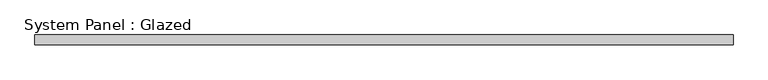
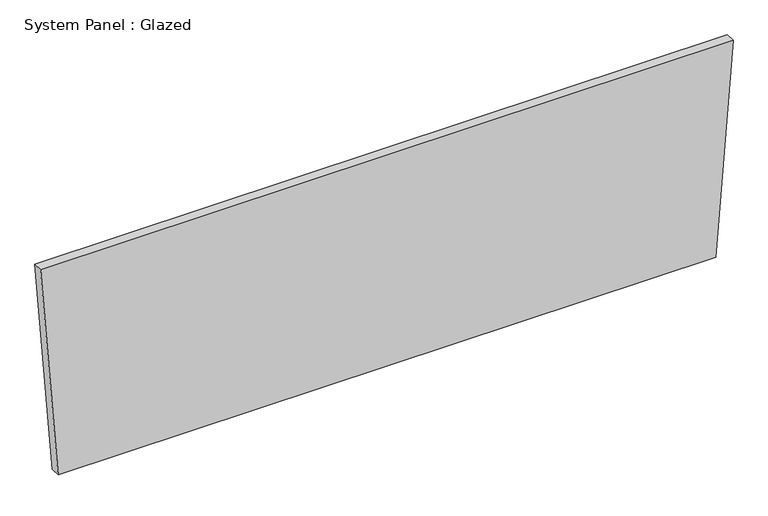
"""IFC4 building model written with IfcOpenShell, lengths in millimetres: plate geometry, System Panel : Glazed."""

from ifc_helpers import new_model, si_unit, frame, origin, place, context, project, spatial, polyline, outline, extrude, source, transform, mapped, element, save


def system_panel_glazed_2beafd58(model_context):
    return source(origin(), model_context, "Body", "SweptSolid", [
        extrude(outline(polyline([(0.0, -858.7313408), (0.0, 858.7313408), (582.3327757, 904.4150628), (582.3327757, -904.4150628), (0.0, -858.7313408)])), frame((0.0, -44.45, 0.0), z_axis=(0.0, 1.0, 0.0), x_axis=(0.0, 0.0, 1.0)), (0.0, 0.0, 1.0), 25.4),
    ])


if __name__ == "__main__":
    model = new_model("IFC4")
    model_context = context("Model", 3, world=origin())
    ifc_project = project(units=[si_unit("LENGTHUNIT", "METRE", prefix="MILLI")], contexts=[model_context])
    site = spatial("IfcSite", under=ifc_project)
    building = spatial("IfcBuilding", under=site)
    placement = place(None, origin())
    system_panel_glazed_shape = system_panel_glazed_2beafd58(model_context)
    element("IfcPlate", 1, ObjectType="System Panel : Glazed", at=placement, inside=building, context=model_context, shape_type="MappedRepresentation", body=[
        mapped(system_panel_glazed_shape, transform((0.0, 0.0, 0.0), x_axis=(1.0, 0.0, 0.0), y_axis=(0.0, 1.0, 0.0), z_axis=(0.0, 0.0, 1.0))),
    ])
    save(model, "model.ifc")
